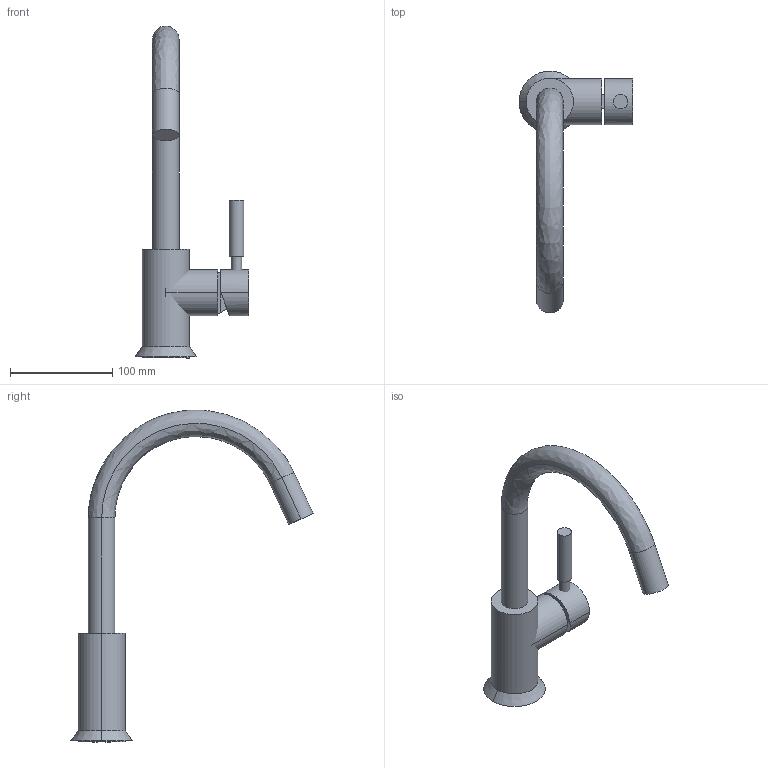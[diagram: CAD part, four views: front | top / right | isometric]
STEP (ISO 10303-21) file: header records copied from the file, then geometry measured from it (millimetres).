
FILE_DESCRIPTION(('FreeCAD Model'),'2;1');
FILE_NAME('Open CASCADE Shape Model','2024-11-19T19:06:56',('Author'),( ''),'Open CASCADE STEP processor 7.6','FreeCAD','Unknown');
FILE_SCHEMA(('AUTOMOTIVE_DESIGN { 1 0 10303 214 1 1 1 1 }'));
Length unit declared in the file: millimetre
Products named in the file (16): TopLevelAssembly; Wyciągnięcie po ścieżce; Stapianie profili; Połączona geometria bryłowa; Wyciąganie001; Wyciągnięcie po ścieżce001; Wyciąganie002; Wyciąganie003; Wyciąganie004; Połączona geometria bryłowa003; Połączona geometria bryłowa001; Połączona geometria bryłowa004; Połączona geometria bryłowa007; Połączona geometria bryłowa005; Połączona geometria bryłowa006; Wyciąganie006
Assembly tree (15 placements, depth 3):
  TopLevelAssembly
    Wyciągnięcie po ścieżce
    Stapianie profili
    Połączona geometria bryłowa
    Wyciąganie001
    Wyciągnięcie po ścieżce001
    Wyciąganie002
    Wyciąganie003
    Wyciąganie004
    Połączona geometria bryłowa003
      Połączona geometria bryłowa001
    Połączona geometria bryłowa004
    Połączona geometria bryłowa007
      Połączona geometria bryłowa005
      Połączona geometria bryłowa006
    Wyciąganie006
Bounding box: 111.11 x 236.29 x 324 mm (x, y, z)
Volume: 1197080.2 mm3; surface area: 164202.1 mm2
Topology: 13 solids, 13 shells, 65 faces, 109 edges, 70 vertices
Faces by surface type: plane 35, cylinder 24, bspline 4, cone 2
Entity records: 2005 total; most frequent: CARTESIAN_POINT 356, DIRECTION 321, ORIENTED_EDGE 218, AXIS2_PLACEMENT_3D 135, EDGE_CURVE 109, VERTEX_POINT 70, ADVANCED_FACE 65, FACE_BOUND 65
